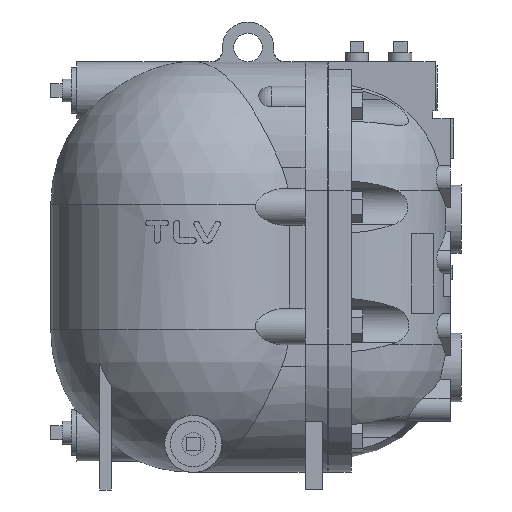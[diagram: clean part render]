
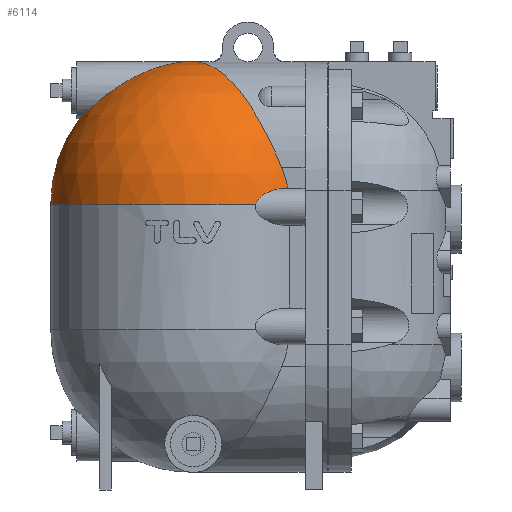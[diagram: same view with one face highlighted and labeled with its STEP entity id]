
A CAD part, front view. The second image highlights one B-rep face of the part: STEP entity #6114.
In plain terms, the highlighted spherical face has radius 125 mm.
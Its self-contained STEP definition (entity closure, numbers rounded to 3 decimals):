
#1824=FACE_OUTER_BOUND('',#2208,.T.);
#2208=EDGE_LOOP('',(#5711,#5712,#5713,#5714,#5715,#5716,#5717));
#2292=B_SPLINE_CURVE_WITH_KNOTS('',3,(#11232,#11233,#11234,#11235,#11236,
#11237,#11238,#11239,#11240,#11241,#11242,#11243,#11244,#11245,#11246,#11247,
#11248,#11249,#11250,#11251,#11252,#11253,#11254,#11255,#11256,#11257,#11258,
#11259,#11260,#11261,#11262,#11263,#11264,#11265,#11266,#11267,#11268,#11269,
#11270,#11271,#11272,#11273),.UNSPECIFIED.,.F.,.F.,(4,2,2,2,2,2,2,2,2,2,
2,2,2,2,2,2,2,2,2,2,4),(0.,0.048,0.097,0.193,
0.325,0.457,0.72,1.241,1.762,
2.804,3.914,5.025,6.136,7.246,
8.008,8.77,10.294,10.751,11.207,
11.664,12.121),.UNSPECIFIED.);
#2296=B_SPLINE_CURVE_WITH_KNOTS('',3,(#11364,#11365,#11366,#11367,#11368,
#11369,#11370,#11371,#11372,#11373,#11374,#11375,#11376,#11377,#11378,#11379,
#11380,#11381,#11382,#11383,#11384,#11385),.UNSPECIFIED.,.F.,.F.,(4,2,2,
2,2,2,2,2,2,2,4),(11.189,11.218,12.891,14.599,
16.306,18.013,19.72,21.513,23.306,
25.099,26.892),.UNSPECIFIED.);
#2299=B_SPLINE_CURVE_WITH_KNOTS('',3,(#11483,#11484,#11485,#11486,#11487,
#11488,#11489,#11490,#11491,#11492,#11493,#11494,#11495,#11496),
 .UNSPECIFIED.,.F.,.F.,(4,2,2,2,2,2,4),(6.074,6.348,
6.826,7.462,8.098,9.37,9.862),
 .UNSPECIFIED.);
#2301=CIRCLE('',#6147,125.);
#2304=CIRCLE('',#6150,125.);
#2534=CIRCLE('',#6723,125.);
#2535=CIRCLE('',#6725,84.076);
#2539=VERTEX_POINT('',#8475);
#2540=VERTEX_POINT('',#8476);
#2544=VERTEX_POINT('',#8518);
#2545=VERTEX_POINT('',#8520);
#3110=VERTEX_POINT('',#11363);
#3127=VERTEX_POINT('',#11480);
#3128=VERTEX_POINT('',#11482);
#3133=EDGE_CURVE('',#2539,#2540,#2301,.T.);
#3138=EDGE_CURVE('',#2545,#2544,#2304,.T.);
#3951=EDGE_CURVE('',#2540,#2545,#2292,.T.);
#3969=EDGE_CURVE('',#3110,#2539,#2296,.T.);
#3996=EDGE_CURVE('',#3128,#3127,#2299,.T.);
#3999=EDGE_CURVE('',#3128,#2544,#2534,.T.);
#4000=EDGE_CURVE('',#3127,#3110,#2535,.T.);
#5711=ORIENTED_EDGE('',*,*,#3133,.T.);
#5712=ORIENTED_EDGE('',*,*,#3951,.T.);
#5713=ORIENTED_EDGE('',*,*,#3138,.T.);
#5714=ORIENTED_EDGE('',*,*,#3999,.F.);
#5715=ORIENTED_EDGE('',*,*,#3996,.T.);
#5716=ORIENTED_EDGE('',*,*,#4000,.T.);
#5717=ORIENTED_EDGE('',*,*,#3969,.T.);
#5791=SPHERICAL_SURFACE('',#6724,125.);
#6114=ADVANCED_FACE('',(#1824),#5791,.T.);
#6147=AXIS2_PLACEMENT_3D('',#8477,#6744,#6745);
#6150=AXIS2_PLACEMENT_3D('',#8521,#6750,#6751);
#6723=AXIS2_PLACEMENT_3D('',#11517,#8427,#8428);
#6724=AXIS2_PLACEMENT_3D('',#11518,#8429,#8430);
#6725=AXIS2_PLACEMENT_3D('',#11519,#8431,#8432);
#6744=DIRECTION('center_axis',(0.,-1.,0.));
#6745=DIRECTION('ref_axis',(-1.,0.,0.));
#6750=DIRECTION('center_axis',(0.,-1.,0.));
#6751=DIRECTION('ref_axis',(-1.,0.,0.));
#8427=DIRECTION('center_axis',(0.,0.,-1.));
#8428=DIRECTION('ref_axis',(-1.,0.,0.));
#8429=DIRECTION('center_axis',(0.,0.,1.));
#8430=DIRECTION('ref_axis',(1.,0.,0.));
#8431=DIRECTION('center_axis',(0.,-1.,0.));
#8432=DIRECTION('ref_axis',(0.,0.,1.));
#8475=CARTESIAN_POINT('',(-118.,0.,247.5));
#8476=CARTESIAN_POINT('',(-123.462,0.,247.381));
#8477=CARTESIAN_POINT('Origin',(-118.,0.,122.5));
#8518=CARTESIAN_POINT('',(-243.,0.,122.5));
#8520=CARTESIAN_POINT('',(-218.089,0.,197.381));
#8521=CARTESIAN_POINT('Origin',(-118.,0.,122.5));
#11232=CARTESIAN_POINT('Ctrl Pts',(-123.462,0.,
247.381));
#11233=CARTESIAN_POINT('Ctrl Pts',(-123.462,-0.161,
247.381));
#11234=CARTESIAN_POINT('Ctrl Pts',(-123.491,-0.32,
247.379));
#11235=CARTESIAN_POINT('Ctrl Pts',(-123.597,-0.628,
247.373));
#11236=CARTESIAN_POINT('Ctrl Pts',(-123.673,-0.777,
247.369));
#11237=CARTESIAN_POINT('Ctrl Pts',(-123.945,-1.205,
247.353));
#11238=CARTESIAN_POINT('Ctrl Pts',(-124.186,-1.464,
247.339));
#11239=CARTESIAN_POINT('Ctrl Pts',(-124.737,-1.988,247.303));
#11240=CARTESIAN_POINT('Ctrl Pts',(-125.095,-2.272,
247.279));
#11241=CARTESIAN_POINT('Ctrl Pts',(-125.849,-2.823,
247.222));
#11242=CARTESIAN_POINT('Ctrl Pts',(-126.246,-3.089,
247.19));
#11243=CARTESIAN_POINT('Ctrl Pts',(-127.455,-3.864,
247.086));
#11244=CARTESIAN_POINT('Ctrl Pts',(-128.285,-4.349,
247.003));
#11245=CARTESIAN_POINT('Ctrl Pts',(-130.548,-5.634,
246.753));
#11246=CARTESIAN_POINT('Ctrl Pts',(-132.145,-6.482,246.542));
#11247=CARTESIAN_POINT('Ctrl Pts',(-135.424,-8.173,246.024));
#11248=CARTESIAN_POINT('Ctrl Pts',(-137.107,-9.013,
245.717));
#11249=CARTESIAN_POINT('Ctrl Pts',(-142.159,-11.471,
244.665));
#11250=CARTESIAN_POINT('Ctrl Pts',(-145.532,-13.024,
243.782));
#11251=CARTESIAN_POINT('Ctrl Pts',(-151.863,-15.788,
241.843));
#11252=CARTESIAN_POINT('Ctrl Pts',(-155.271,-17.187,240.636));
#11253=CARTESIAN_POINT('Ctrl Pts',(-162.18,-19.756,
237.819));
#11254=CARTESIAN_POINT('Ctrl Pts',(-165.681,-20.925,
236.209));
#11255=CARTESIAN_POINT('Ctrl Pts',(-172.606,-22.877,
232.663));
#11256=CARTESIAN_POINT('Ctrl Pts',(-176.032,-23.66,
230.726));
#11257=CARTESIAN_POINT('Ctrl Pts',(-182.659,-24.721,226.656));
#11258=CARTESIAN_POINT('Ctrl Pts',(-185.86,-25.,224.523));
#11259=CARTESIAN_POINT('Ctrl Pts',(-190.951,-25.,220.911));
#11260=CARTESIAN_POINT('Ctrl Pts',(-193.084,-24.869,
219.33));
#11261=CARTESIAN_POINT('Ctrl Pts',(-197.315,-24.245,
216.06));
#11262=CARTESIAN_POINT('Ctrl Pts',(-199.413,-23.752,
214.371));
#11263=CARTESIAN_POINT('Ctrl Pts',(-205.442,-21.635,209.335));
#11264=CARTESIAN_POINT('Ctrl Pts',(-209.108,-19.36,
206.018));
#11265=CARTESIAN_POINT('Ctrl Pts',(-212.847,-15.21,
202.5));
#11266=CARTESIAN_POINT('Ctrl Pts',(-213.683,-14.12,
201.702));
#11267=CARTESIAN_POINT('Ctrl Pts',(-215.188,-11.711,
200.248));
#11268=CARTESIAN_POINT('Ctrl Pts',(-215.859,-10.391,
199.593));
#11269=CARTESIAN_POINT('Ctrl Pts',(-216.954,-7.589,
198.513));
#11270=CARTESIAN_POINT('Ctrl Pts',(-217.381,-6.105,198.088));
#11271=CARTESIAN_POINT('Ctrl Pts',(-217.949,-3.071,
197.522));
#11272=CARTESIAN_POINT('Ctrl Pts',(-218.089,-1.522,
197.381));
#11273=CARTESIAN_POINT('Ctrl Pts',(-218.089,0.,
197.381));
#11363=CARTESIAN_POINT('',(-40.46,-92.5,155.));
#11364=CARTESIAN_POINT('Ctrl Pts',(-40.46,-92.5,
155.));
#11365=CARTESIAN_POINT('Ctrl Pts',(-40.5,-92.5,
155.097));
#11366=CARTESIAN_POINT('Ctrl Pts',(-40.541,-92.5,155.193));
#11367=CARTESIAN_POINT('Ctrl Pts',(-42.861,-92.483,
160.721));
#11368=CARTESIAN_POINT('Ctrl Pts',(-45.191,-91.981,
166.026));
#11369=CARTESIAN_POINT('Ctrl Pts',(-49.849,-90.203,
176.13));
#11370=CARTESIAN_POINT('Ctrl Pts',(-52.363,-88.84,
181.326));
#11371=CARTESIAN_POINT('Ctrl Pts',(-57.616,-85.162,
191.51));
#11372=CARTESIAN_POINT('Ctrl Pts',(-60.355,-82.848,
196.498));
#11373=CARTESIAN_POINT('Ctrl Pts',(-65.947,-77.404,
205.936));
#11374=CARTESIAN_POINT('Ctrl Pts',(-68.804,-74.272,
210.39));
#11375=CARTESIAN_POINT('Ctrl Pts',(-74.508,-67.447,
218.524));
#11376=CARTESIAN_POINT('Ctrl Pts',(-77.356,-63.755,
222.203));
#11377=CARTESIAN_POINT('Ctrl Pts',(-83.027,-55.992,
228.813));
#11378=CARTESIAN_POINT('Ctrl Pts',(-86.084,-51.579,
231.981));
#11379=CARTESIAN_POINT('Ctrl Pts',(-92.365,-42.11,237.542));
#11380=CARTESIAN_POINT('Ctrl Pts',(-95.591,-37.054,
239.936));
#11381=CARTESIAN_POINT('Ctrl Pts',(-102.078,-26.617,
243.762));
#11382=CARTESIAN_POINT('Ctrl Pts',(-105.344,-21.231,
245.195));
#11383=CARTESIAN_POINT('Ctrl Pts',(-111.781,-10.493,
247.064));
#11384=CARTESIAN_POINT('Ctrl Pts',(-114.953,-5.141,
247.5));
#11385=CARTESIAN_POINT('Ctrl Pts',(-118.,0.,247.5));
#11480=CARTESIAN_POINT('',(-34.976,-92.5,135.76));
#11482=CARTESIAN_POINT('',(-63.192,-112.344,122.5));
#11483=CARTESIAN_POINT('Ctrl Pts',(-63.192,-112.344,
122.5));
#11484=CARTESIAN_POINT('Ctrl Pts',(-62.935,-112.218,
123.389));
#11485=CARTESIAN_POINT('Ctrl Pts',(-62.552,-112.02,
124.25));
#11486=CARTESIAN_POINT('Ctrl Pts',(-61.27,-111.328,
126.457));
#11487=CARTESIAN_POINT('Ctrl Pts',(-60.196,-110.721,127.695));
#11488=CARTESIAN_POINT('Ctrl Pts',(-57.717,-109.264,
130.045));
#11489=CARTESIAN_POINT('Ctrl Pts',(-56.134,-108.292,
131.179));
#11490=CARTESIAN_POINT('Ctrl Pts',(-52.801,-106.143,
133.118));
#11491=CARTESIAN_POINT('Ctrl Pts',(-51.05,-104.964,
133.918));
#11492=CARTESIAN_POINT('Ctrl Pts',(-45.726,-101.216,
135.811));
#11493=CARTESIAN_POINT('Ctrl Pts',(-42.092,-98.429,
136.378));
#11494=CARTESIAN_POINT('Ctrl Pts',(-37.551,-94.699,
136.201));
#11495=CARTESIAN_POINT('Ctrl Pts',(-36.254,-93.606,
136.046));
#11496=CARTESIAN_POINT('Ctrl Pts',(-34.976,-92.5,
135.76));
#11517=CARTESIAN_POINT('Origin',(-118.,0.,122.5));
#11518=CARTESIAN_POINT('Origin',(-118.,0.,122.5));
#11519=CARTESIAN_POINT('Origin',(-118.,-92.5,122.5));
